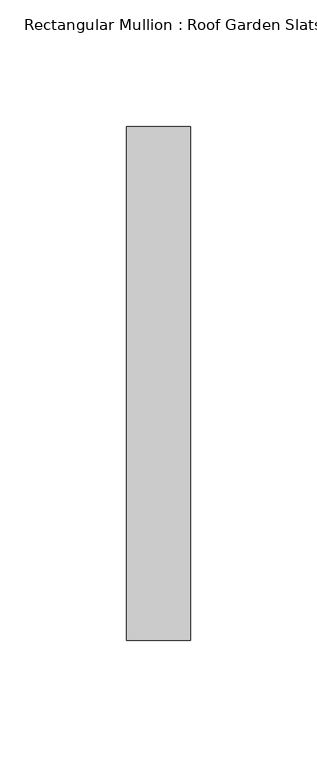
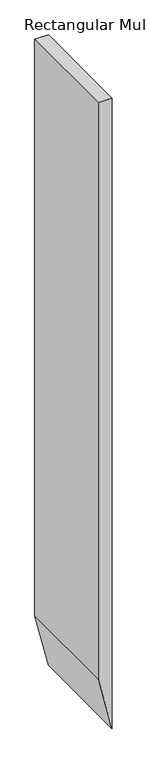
"""IFC4 building model written with IfcOpenShell, lengths in millimetres: member geometry, Rectangular Mullion : Roof Garden Slats."""

from ifc_helpers import new_model, si_unit, frame, origin, place, context, project, spatial, polyline, outline, extrude, source, transform, mapped, element, save


def rectangular_mullion_roof_garden_slats_d91f972c(model_context):
    return source(origin(), model_context, "Body", "SweptSolid", [
        extrude(outline(polyline([(0.0, 0.0), (0.0, -25.4), (-1121.7279248, -25.4), (-1226.802402, 0.0), (0.0, 0.0)])), frame((0.0, -63.5, 0.0), z_axis=(0.0, 1.0, 0.0), x_axis=(0.0, 0.0, 1.0)), (0.0, 0.0, 1.0), 203.2),
    ])


if __name__ == "__main__":
    model = new_model("IFC4")
    model_context = context("Model", 3, world=origin())
    ifc_project = project(units=[si_unit("LENGTHUNIT", "METRE", prefix="MILLI")], contexts=[model_context])
    site = spatial("IfcSite", under=ifc_project)
    building = spatial("IfcBuilding", under=site)
    placement = place(None, origin())
    rectangular_mullion_roof_garden_slats_shape = rectangular_mullion_roof_garden_slats_d91f972c(model_context)
    element("IfcMember", 1, ObjectType="Rectangular Mullion : Roof Garden Slats", at=placement, inside=building, context=model_context, shape_type="MappedRepresentation", body=[
        mapped(rectangular_mullion_roof_garden_slats_shape, transform((0.0, 0.0, 0.0), x_axis=(1.0, 0.0, 0.0), y_axis=(0.0, 1.0, 0.0), z_axis=(0.0, 0.0, 1.0))),
    ])
    save(model, "model.ifc")
